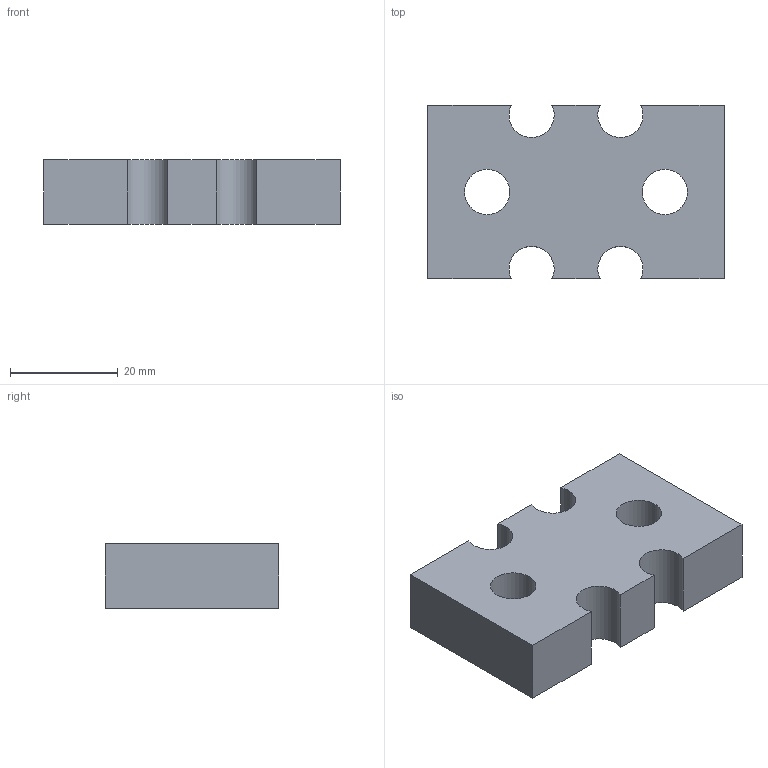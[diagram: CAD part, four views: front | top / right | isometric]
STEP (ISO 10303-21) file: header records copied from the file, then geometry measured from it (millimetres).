
FILE_DESCRIPTION(('Mechanical CAD reference from nasji.com'),'2;1');
FILE_NAME('NASJI.step','',(''),(''),'','NASJI distribution','');
FILE_SCHEMA(('AUTOMOTIVE_DESIGN { 1 0 10303 214 1 1 1 1 }'));
Length unit declared in the file: millimetre
Products named in the file (1): Open CASCADE STEP translator 7.8 53
Bounding box: 55 x 32.2 x 12 mm (x, y, z)
Volume: 17885.2 mm3; surface area: 6156.3 mm2
Topology: 1 solids, 1 shells, 16 faces, 42 edges, 28 vertices
Faces by surface type: plane 10, cylinder 6
Full cylindrical faces by diameter (mm): 8.4 x2
Entity records: 1070 total; most frequent: CARTESIAN_POINT 235, DIRECTION 148, LINE 86, VECTOR 86, ORIENTED_EDGE 84, PCURVE 84, DEFINITIONAL_REPRESENTATION 84, EDGE_CURVE 42
